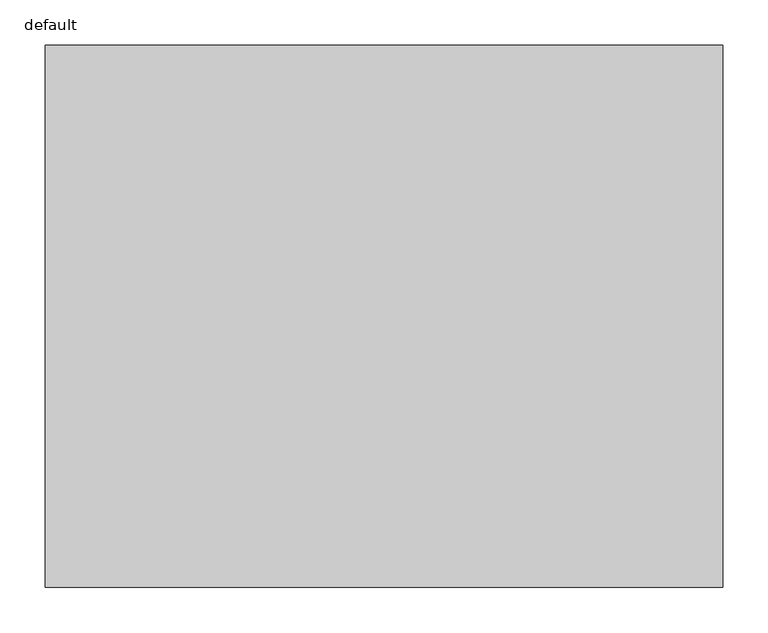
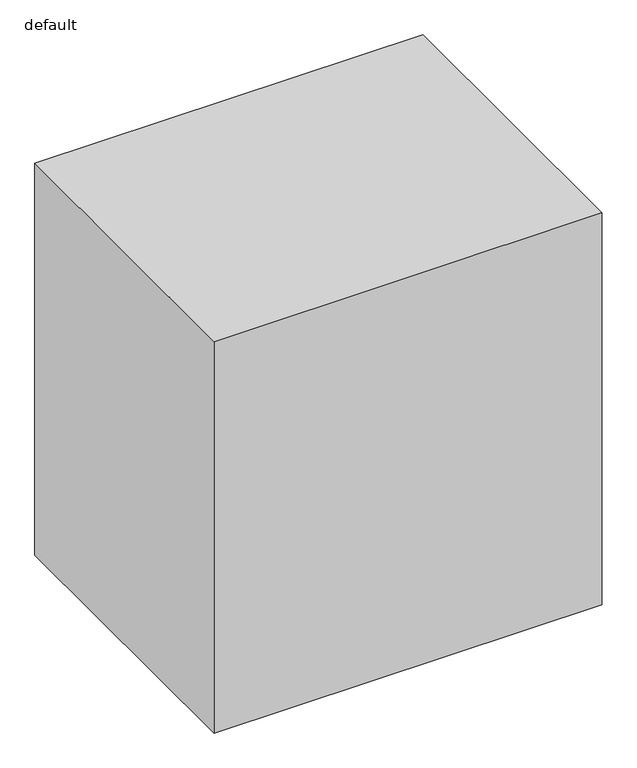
"""IFC4 building model written with IfcOpenShell, lengths in millimetres: furniture geometry, Fu_кухонный напольный модуль_LEG : default."""

from ifc_helpers import new_model, si_unit, origin, origin_with_axes, place, context, project, spatial, polyline, outline, extrude, source, transform, mapped, element, save


def default_45785e65(model_context):
    return source(origin(), model_context, "Body", "SweptSolid", [
        extrude(outline(polyline([(750.0, 0.0), (0.0, 0.0), (0.0, 600.0), (750.0, 600.0), (750.0, 0.0)])), origin_with_axes(), (0.0, 0.0, 1.0), 800.0),
    ])


if __name__ == "__main__":
    model = new_model("IFC4")
    model_context = context("Model", 3, world=origin())
    ifc_project = project(units=[si_unit("LENGTHUNIT", "METRE", prefix="MILLI")], contexts=[model_context])
    site = spatial("IfcSite", under=ifc_project)
    building = spatial("IfcBuilding", under=site)
    placement = place(None, origin())
    default_shape = default_45785e65(model_context)
    element("IfcFurniture", 1, ObjectType="Fu_кухонный напольный модуль_LEG : default", at=placement, inside=building, context=model_context, shape_type="MappedRepresentation", body=[
        mapped(default_shape, transform((0.0, 0.0, 0.0), x_axis=(1.0, 0.0, 0.0), y_axis=(0.0, 1.0, 0.0), z_axis=(0.0, 0.0, 1.0))),
    ])
    save(model, "model.ifc")
